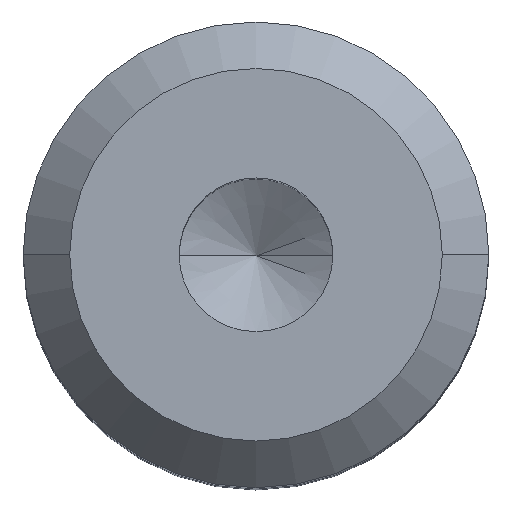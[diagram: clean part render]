
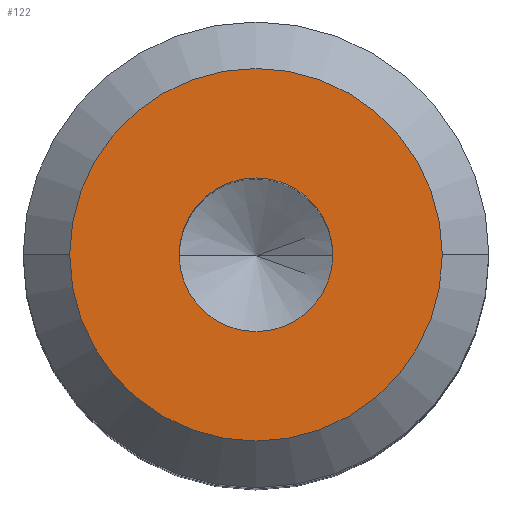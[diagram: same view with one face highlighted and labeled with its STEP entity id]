
A CAD part, top view. The second image highlights one B-rep face of the part: STEP entity #122.
In plain terms, the highlighted planar face has unit normal (0, 0, 1).
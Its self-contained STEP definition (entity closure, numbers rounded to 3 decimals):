
#65 = DIRECTION ( 'NONE',  ( 0., 0., -1. ) ) ;
#76 = FACE_OUTER_BOUND ( 'NONE', #468, .T. ) ;
#82 = EDGE_CURVE ( 'NONE', #465, #84, #611, .T. ) ;
#84 = VERTEX_POINT ( 'NONE', #138 ) ;
#91 = ORIENTED_EDGE ( 'NONE', *, *, #82, .F. ) ;
#122 = ADVANCED_FACE ( 'NONE', ( #890, #76 ), #960, .T. ) ;
#138 = CARTESIAN_POINT ( 'NONE',  ( 4., 0., 15. ) ) ;
#178 = CARTESIAN_POINT ( 'NONE',  ( 1.65, 0., 15. ) ) ;
#205 = CARTESIAN_POINT ( 'NONE',  ( -5.2, -8.314, 15. ) ) ;
#207 = CIRCLE ( 'NONE', #800, 1.65 ) ;
#225 = CARTESIAN_POINT ( 'NONE',  ( -1.65, 0., 15. ) ) ;
#230 = DIRECTION ( 'NONE',  ( -1., 0., 0. ) ) ;
#262 = AXIS2_PLACEMENT_3D ( 'NONE', #205, #962, #513 ) ;
#268 = DIRECTION ( 'NONE',  ( 0., 0., 1. ) ) ;
#275 = VERTEX_POINT ( 'NONE', #225 ) ;
#335 = CARTESIAN_POINT ( 'NONE',  ( -4., 0., 15. ) ) ;
#337 = EDGE_CURVE ( 'NONE', #624, #275, #987, .T. ) ;
#340 = CARTESIAN_POINT ( 'NONE',  ( 0., 0., 15. ) ) ;
#349 = AXIS2_PLACEMENT_3D ( 'NONE', #767, #845, #756 ) ;
#364 = CARTESIAN_POINT ( 'NONE',  ( 0., 0., 15. ) ) ;
#401 = EDGE_CURVE ( 'NONE', #84, #465, #575, .T. ) ;
#411 = DIRECTION ( 'NONE',  ( 1., 0., 0. ) ) ;
#463 = EDGE_LOOP ( 'NONE', ( #954, #975 ) ) ;
#465 = VERTEX_POINT ( 'NONE', #335 ) ;
#468 = EDGE_LOOP ( 'NONE', ( #990, #91 ) ) ;
#513 = DIRECTION ( 'NONE',  ( 1., 0., 0. ) ) ;
#575 = CIRCLE ( 'NONE', #985, 4. ) ;
#592 = DIRECTION ( 'NONE',  ( -1., 0., 0. ) ) ;
#611 = CIRCLE ( 'NONE', #919, 4. ) ;
#624 = VERTEX_POINT ( 'NONE', #178 ) ;
#690 = DIRECTION ( 'NONE',  ( 0., 0., -1. ) ) ;
#756 = DIRECTION ( 'NONE',  ( 1., 0., 0. ) ) ;
#767 = CARTESIAN_POINT ( 'NONE',  ( 0., 0., 15. ) ) ;
#800 = AXIS2_PLACEMENT_3D ( 'NONE', #340, #268, #411 ) ;
#816 = EDGE_CURVE ( 'NONE', #275, #624, #207, .T. ) ;
#845 = DIRECTION ( 'NONE',  ( 0., 0., 1. ) ) ;
#890 = FACE_BOUND ( 'NONE', #463, .T. ) ;
#919 = AXIS2_PLACEMENT_3D ( 'NONE', #364, #65, #592 ) ;
#954 = ORIENTED_EDGE ( 'NONE', *, *, #337, .F. ) ;
#960 = PLANE ( 'NONE',  #262 ) ;
#962 = DIRECTION ( 'NONE',  ( 0., 0., 1. ) ) ;
#975 = ORIENTED_EDGE ( 'NONE', *, *, #816, .F. ) ;
#983 = CARTESIAN_POINT ( 'NONE',  ( 0., 0., 15. ) ) ;
#985 = AXIS2_PLACEMENT_3D ( 'NONE', #983, #690, #230 ) ;
#987 = CIRCLE ( 'NONE', #349, 1.65 ) ;
#990 = ORIENTED_EDGE ( 'NONE', *, *, #401, .F. ) ;
